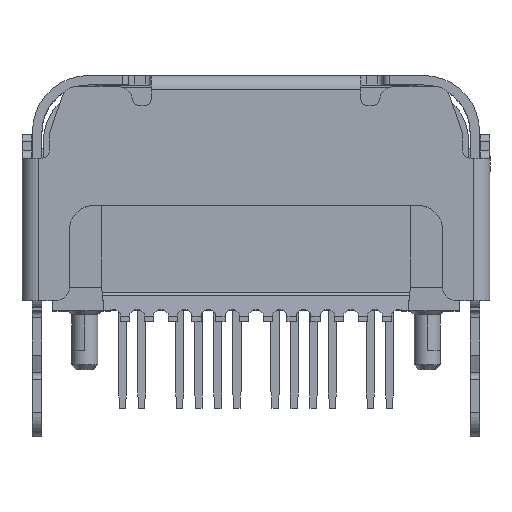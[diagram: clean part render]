
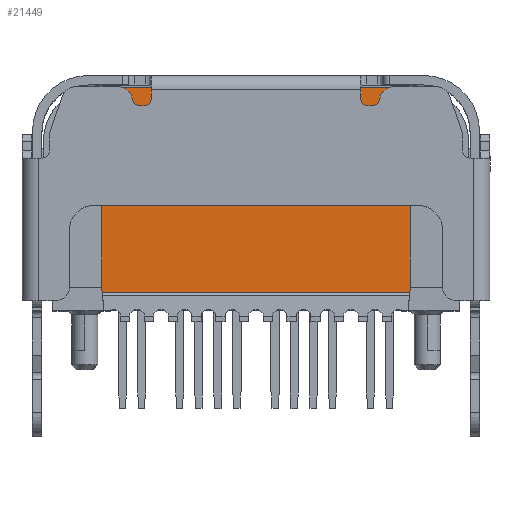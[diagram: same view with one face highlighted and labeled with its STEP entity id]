
A CAD part, top view. The second image highlights one B-rep face of the part: STEP entity #21449.
In plain terms, the highlighted planar face has unit normal (0, 0.009, 1) as drawn and (0, 0.009, -1) by its records, which use the part's own axes.
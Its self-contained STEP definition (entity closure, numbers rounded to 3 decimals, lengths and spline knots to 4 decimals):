
#7304=DIRECTION('',(1.,0.,0.));
#7305=VECTOR('',#7304,6.49);
#7306=CARTESIAN_POINT('',(-3.245,1.4,0.0088));
#7307=LINE('',#7306,#7305);
#7348=DIRECTION('',(0.,1.,0.009));
#7349=VECTOR('',#7348,4.2002);
#7350=CARTESIAN_POINT('',(-3.245,-2.8,
-0.0283));
#7351=LINE('',#7350,#7349);
#7356=DIRECTION('',(0.,-1.,-0.004));
#7357=VECTOR('',#7356,0.11);
#7358=CARTESIAN_POINT('',(-3.245,-2.8,
-0.0283));
#7359=LINE('',#7358,#7357);
#7360=DIRECTION('',(1.,0.,0.));
#7361=VECTOR('',#7360,0.011);
#7362=CARTESIAN_POINT('',(-3.245,-2.91,-0.0288));
#7363=LINE('',#7362,#7361);
#7364=DIRECTION('',(1.,0.,0.));
#7365=VECTOR('',#7364,6.468);
#7366=CARTESIAN_POINT('',(-3.234,-2.91,-0.0288));
#7367=LINE('',#7366,#7365);
#7368=DIRECTION('',(1.,0.,0.));
#7369=VECTOR('',#7368,0.011);
#7370=CARTESIAN_POINT('',(3.234,-2.91,-0.0288));
#7371=LINE('',#7370,#7369);
#7372=DIRECTION('',(0.,1.,0.004));
#7373=VECTOR('',#7372,0.11);
#7374=CARTESIAN_POINT('',(3.245,-2.91,-0.0288));
#7375=LINE('',#7374,#7373);
#10673=DIRECTION('',(0.,-1.,-0.009));
#10674=VECTOR('',#10673,4.2002);
#10675=CARTESIAN_POINT('',(3.245,1.4,0.0088));
#10676=LINE('',#10675,#10674);
#16460=CARTESIAN_POINT('',(-3.245,1.4,0.0088));
#16461=VERTEX_POINT('',#16460);
#16462=CARTESIAN_POINT('',(3.245,1.4,0.0088));
#16463=VERTEX_POINT('',#16462);
#16484=CARTESIAN_POINT('',(-3.245,-2.8,
-0.0283));
#16485=VERTEX_POINT('',#16484);
#16486=CARTESIAN_POINT('',(-3.245,-2.91,-0.0288));
#16487=VERTEX_POINT('',#16486);
#16488=CARTESIAN_POINT('',(-3.234,-2.91,-0.0288));
#16489=VERTEX_POINT('',#16488);
#16490=CARTESIAN_POINT('',(3.234,-2.91,-0.0288));
#16491=VERTEX_POINT('',#16490);
#16492=CARTESIAN_POINT('',(3.245,-2.91,-0.0288));
#16493=VERTEX_POINT('',#16492);
#16494=CARTESIAN_POINT('',(3.245,-2.8,
-0.0283));
#16495=VERTEX_POINT('',#16494);
#21428=CARTESIAN_POINT('',(0.,-0.755,-0.01));
#21429=DIRECTION('',(0.,-0.009,1.));
#21430=DIRECTION('',(0.,1.,0.009));
#21431=AXIS2_PLACEMENT_3D('',#21428,#21429,#21430);
#21432=PLANE('',#21431);
#21433=ORIENTED_EDGE('',*,*,#21418,.F.);
#21435=ORIENTED_EDGE('',*,*,#21434,.T.);
#21437=ORIENTED_EDGE('',*,*,#21436,.T.);
#21439=ORIENTED_EDGE('',*,*,#21438,.T.);
#21441=ORIENTED_EDGE('',*,*,#21440,.T.);
#21443=ORIENTED_EDGE('',*,*,#21442,.T.);
#21445=ORIENTED_EDGE('',*,*,#21444,.F.);
#21446=ORIENTED_EDGE('',*,*,#21385,.F.);
#21447=EDGE_LOOP('',(#21433,#21435,#21437,#21439,#21441,#21443,#21445,#21446));
#21448=FACE_OUTER_BOUND('',#21447,.F.);
#21449=ADVANCED_FACE('',(#21448),#21432,.F.);
#21385=EDGE_CURVE('',#16461,#16463,#7307,.T.);
#21418=EDGE_CURVE('',#16485,#16461,#7351,.T.);
#21434=EDGE_CURVE('',#16485,#16487,#7359,.T.);
#21436=EDGE_CURVE('',#16487,#16489,#7363,.T.);
#21438=EDGE_CURVE('',#16489,#16491,#7367,.T.);
#21440=EDGE_CURVE('',#16491,#16493,#7371,.T.);
#21442=EDGE_CURVE('',#16493,#16495,#7375,.T.);
#21444=EDGE_CURVE('',#16463,#16495,#10676,.T.);
